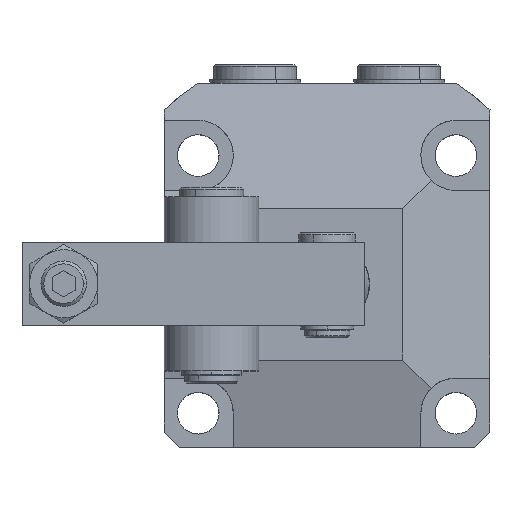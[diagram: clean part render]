
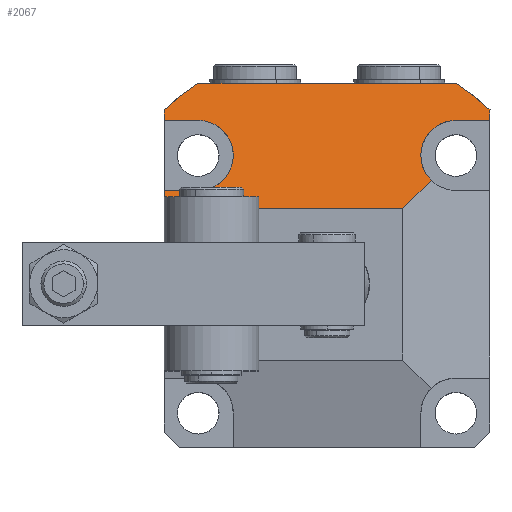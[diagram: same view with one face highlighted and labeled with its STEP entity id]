
A CAD part, top view. The second image highlights one B-rep face of the part: STEP entity #2067.
In plain terms, the highlighted planar face has unit normal (0, 0.259, 0.966).
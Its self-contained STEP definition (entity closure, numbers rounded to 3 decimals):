
#1924=AXIS2_PLACEMENT_3D('Plane Axis2P3D',#1921,#1922,#1923) ;
#1467=CARTESIAN_POINT('Vertex',(34.059,53.,86.158)) ;
#1483=CARTESIAN_POINT('Vertex',(-34.059,53.,86.158)) ;
#1486=CARTESIAN_POINT('Line Origine',(0.,53.,86.158)) ;
#1880=CARTESIAN_POINT('Vertex',(43.,46.043,88.022)) ;
#1884=CARTESIAN_POINT('Control Point',(34.059,53.,86.158)) ;
#1885=CARTESIAN_POINT('Control Point',(37.249,50.95,86.707)) ;
#1886=CARTESIAN_POINT('Control Point',(40.245,48.616,87.332)) ;
#1887=CARTESIAN_POINT('Control Point',(43.,46.043,88.022)) ;
#1905=CARTESIAN_POINT('Vertex',(-43.,46.043,88.022)) ;
#1909=CARTESIAN_POINT('Control Point',(-34.059,53.,86.158)) ;
#1910=CARTESIAN_POINT('Control Point',(-37.249,50.95,86.707)) ;
#1911=CARTESIAN_POINT('Control Point',(-40.245,48.616,87.332)) ;
#1912=CARTESIAN_POINT('Control Point',(-43.,46.043,88.022)) ;
#1921=CARTESIAN_POINT('Axis2P3D Location',(0.,91.171,75.93)) ;
#1926=CARTESIAN_POINT('Line Origine',(43.,44.647,88.396)) ;
#1930=CARTESIAN_POINT('Vertex',(43.,43.25,88.77)) ;
#1933=CARTESIAN_POINT('Line Origine',(-43.,44.647,88.396)) ;
#1937=CARTESIAN_POINT('Vertex',(-43.,43.25,88.77)) ;
#1940=CARTESIAN_POINT('Line Origine',(-38.5,43.25,88.77)) ;
#1944=CARTESIAN_POINT('Vertex',(-34.,43.25,88.77)) ;
#1948=CARTESIAN_POINT('Control Point',(-29.565,42.118,89.074)) ;
#1949=CARTESIAN_POINT('Control Point',(-30.333,42.537,88.961)) ;
#1950=CARTESIAN_POINT('Control Point',(-31.152,42.867,88.873)) ;
#1951=CARTESIAN_POINT('Control Point',(-32.01,43.098,88.811)) ;
#1952=CARTESIAN_POINT('Control Point',(-32.935,43.232,88.775)) ;
#1953=CARTESIAN_POINT('Control Point',(-33.862,43.249,88.77)) ;
#1954=CARTESIAN_POINT('Control Point',(-33.908,43.25,88.77)) ;
#1955=CARTESIAN_POINT('Control Point',(-33.954,43.25,88.77)) ;
#1956=CARTESIAN_POINT('Control Point',(-34.,43.25,88.77)) ;
#1957=CARTESIAN_POINT('Vertex',(-29.565,42.118,89.074)) ;
#1961=CARTESIAN_POINT('Control Point',(-29.565,42.118,89.074)) ;
#1962=CARTESIAN_POINT('Control Point',(-28.783,41.691,89.188)) ;
#1963=CARTESIAN_POINT('Control Point',(-28.056,41.171,89.327)) ;
#1964=CARTESIAN_POINT('Control Point',(-27.397,40.568,89.489)) ;
#1965=CARTESIAN_POINT('Control Point',(-26.228,39.21,89.853)) ;
#1966=CARTESIAN_POINT('Control Point',(-25.42,37.625,90.277)) ;
#1967=CARTESIAN_POINT('Control Point',(-25.111,36.781,90.504)) ;
#1968=CARTESIAN_POINT('Control Point',(-24.7,35.035,90.971)) ;
#1969=CARTESIAN_POINT('Control Point',(-24.716,33.245,91.451)) ;
#1970=CARTESIAN_POINT('Control Point',(-24.832,32.351,91.69)) ;
#1971=CARTESIAN_POINT('Control Point',(-25.274,30.622,92.154)) ;
#1972=CARTESIAN_POINT('Control Point',(-26.118,29.039,92.578)) ;
#1973=CARTESIAN_POINT('Control Point',(-26.63,28.304,92.775)) ;
#1974=CARTESIAN_POINT('Control Point',(-27.813,26.982,93.129)) ;
#1975=CARTESIAN_POINT('Control Point',(-29.286,25.968,93.401)) ;
#1976=CARTESIAN_POINT('Control Point',(-30.073,25.554,93.512)) ;
#1977=CARTESIAN_POINT('Control Point',(-31.329,25.077,93.64)) ;
#1978=CARTESIAN_POINT('Control Point',(-32.647,24.833,93.705)) ;
#1979=CARTESIAN_POINT('Control Point',(-33.097,24.778,93.72)) ;
#1980=CARTESIAN_POINT('Control Point',(-33.548,24.75,93.727)) ;
#1981=CARTESIAN_POINT('Control Point',(-34.,24.75,93.727)) ;
#1982=CARTESIAN_POINT('Vertex',(-34.,24.75,93.727)) ;
#1985=CARTESIAN_POINT('Line Origine',(-38.5,24.75,93.727)) ;
#1989=CARTESIAN_POINT('Vertex',(-43.,24.75,93.727)) ;
#1992=CARTESIAN_POINT('Line Origine',(-43.,22.375,94.364)) ;
#1996=CARTESIAN_POINT('Vertex',(-43.,20.,95.)) ;
#1999=CARTESIAN_POINT('Line Origine',(-11.5,20.,95.)) ;
#2003=CARTESIAN_POINT('Vertex',(20.,20.,95.)) ;
#2006=CARTESIAN_POINT('Line Origine',(23.73,23.73,94.001)) ;
#2010=CARTESIAN_POINT('Vertex',(27.459,27.459,93.001)) ;
#2014=CARTESIAN_POINT('Control Point',(27.459,27.459,93.001)) ;
#2015=CARTESIAN_POINT('Control Point',(26.826,28.092,92.832)) ;
#2016=CARTESIAN_POINT('Control Point',(26.273,28.799,92.642)) ;
#2017=CARTESIAN_POINT('Control Point',(25.809,29.566,92.437)) ;
#2018=CARTESIAN_POINT('Control Point',(25.071,31.202,91.999)) ;
#2019=CARTESIAN_POINT('Control Point',(24.744,32.958,91.528)) ;
#2020=CARTESIAN_POINT('Control Point',(24.686,33.857,91.287)) ;
#2021=CARTESIAN_POINT('Control Point',(24.772,35.351,90.887)) ;
#2022=CARTESIAN_POINT('Control Point',(25.153,36.796,90.499)) ;
#2023=CARTESIAN_POINT('Control Point',(25.351,37.361,90.348)) ;
#2024=CARTESIAN_POINT('Control Point',(25.595,37.909,90.201)) ;
#2025=CARTESIAN_POINT('Control Point',(25.882,38.435,90.06)) ;
#2026=CARTESIAN_POINT('Vertex',(25.882,38.435,90.06)) ;
#2030=CARTESIAN_POINT('Control Point',(25.882,38.435,90.06)) ;
#2031=CARTESIAN_POINT('Control Point',(26.303,39.206,89.854)) ;
#2032=CARTESIAN_POINT('Control Point',(26.818,39.929,89.66)) ;
#2033=CARTESIAN_POINT('Control Point',(27.418,40.591,89.483)) ;
#2034=CARTESIAN_POINT('Control Point',(28.759,41.75,89.172)) ;
#2035=CARTESIAN_POINT('Control Point',(30.347,42.567,88.953)) ;
#2036=CARTESIAN_POINT('Control Point',(31.18,42.876,88.87)) ;
#2037=CARTESIAN_POINT('Control Point',(32.256,43.135,88.801)) ;
#2038=CARTESIAN_POINT('Control Point',(33.352,43.231,88.775)) ;
#2039=CARTESIAN_POINT('Control Point',(33.568,43.244,88.772)) ;
#2040=CARTESIAN_POINT('Control Point',(33.784,43.25,88.77)) ;
#2041=CARTESIAN_POINT('Control Point',(34.,43.25,88.77)) ;
#2042=CARTESIAN_POINT('Vertex',(34.,43.25,88.77)) ;
#2045=CARTESIAN_POINT('Line Origine',(38.5,43.25,88.77)) ;
#1487=DIRECTION('Vector Direction',(1.,0.,0.)) ;
#1922=DIRECTION('Axis2P3D Direction',(-0.,-0.259,-0.966)) ;
#1923=DIRECTION('Axis2P3D XDirection',(0.,-0.966,0.259)) ;
#1927=DIRECTION('Vector Direction',(0.,-0.966,0.259)) ;
#1934=DIRECTION('Vector Direction',(0.,-0.966,0.259)) ;
#1941=DIRECTION('Vector Direction',(-1.,0.,0.)) ;
#1986=DIRECTION('Vector Direction',(-1.,0.,0.)) ;
#1993=DIRECTION('Vector Direction',(0.,-0.966,0.259)) ;
#2000=DIRECTION('Vector Direction',(-1.,0.,0.)) ;
#2007=DIRECTION('Vector Direction',(0.695,0.695,-0.186)) ;
#2046=DIRECTION('Vector Direction',(1.,0.,0.)) ;
#1488=VECTOR('Line Direction',#1487,1.) ;
#1928=VECTOR('Line Direction',#1927,1.) ;
#1935=VECTOR('Line Direction',#1934,1.) ;
#1942=VECTOR('Line Direction',#1941,1.) ;
#1987=VECTOR('Line Direction',#1986,1.) ;
#1994=VECTOR('Line Direction',#1993,1.) ;
#2001=VECTOR('Line Direction',#2000,1.) ;
#2008=VECTOR('Line Direction',#2007,1.) ;
#2047=VECTOR('Line Direction',#2046,1.) ;
#2051=ORIENTED_EDGE('',*,*,#1932,.F.) ;
#2052=ORIENTED_EDGE('',*,*,#1888,.F.) ;
#2053=ORIENTED_EDGE('',*,*,#1490,.F.) ;
#2054=ORIENTED_EDGE('',*,*,#1913,.T.) ;
#2055=ORIENTED_EDGE('',*,*,#1939,.T.) ;
#2056=ORIENTED_EDGE('',*,*,#1946,.F.) ;
#2057=ORIENTED_EDGE('',*,*,#1959,.F.) ;
#2058=ORIENTED_EDGE('',*,*,#1984,.T.) ;
#2059=ORIENTED_EDGE('',*,*,#1991,.T.) ;
#2060=ORIENTED_EDGE('',*,*,#1998,.T.) ;
#2061=ORIENTED_EDGE('',*,*,#2005,.F.) ;
#2062=ORIENTED_EDGE('',*,*,#2012,.T.) ;
#2063=ORIENTED_EDGE('',*,*,#2028,.T.) ;
#2064=ORIENTED_EDGE('',*,*,#2044,.T.) ;
#2065=ORIENTED_EDGE('',*,*,#2049,.T.) ;
#2067=ADVANCED_FACE('Manifold Brep',(#2066),#1925,.F.) ;
#1883=B_SPLINE_CURVE_WITH_KNOTS('',3,(#1884,#1885,#1886,#1887),.UNSPECIFIED.,.F.,.U.,(4,4),(0.,16.27),.UNSPECIFIED.) ;
#1908=B_SPLINE_CURVE_WITH_KNOTS('',3,(#1909,#1910,#1911,#1912),.UNSPECIFIED.,.F.,.U.,(4,4),(0.,16.27),.UNSPECIFIED.) ;
#1947=B_SPLINE_CURVE_WITH_KNOTS('',5,(#1948,#1949,#1950,#1951,#1952,#1953,#1954,#1955,#1956),.UNSPECIFIED.,.F.,.U.,(6,3,6),(0.,6.249,6.575),.UNSPECIFIED.) ;
#1960=B_SPLINE_CURVE_WITH_KNOTS('',5,(#1961,#1962,#1963,#1964,#1965,#1966,#1967,#1968,#1969,#1970,#1971,#1972,#1973,#1974,#1975,#1976,#1977,#1978,#1979,#1980,#1981),.UNSPECIFIED.,.F.,.U.,(6,3,3,3,3,3,6),(0.,6.365,12.871,19.414,25.849,32.14,35.342),.UNSPECIFIED.) ;
#2013=B_SPLINE_CURVE_WITH_KNOTS('',5,(#2014,#2015,#2016,#2017,#2018,#2019,#2020,#2021,#2022,#2023,#2024,#2025),.UNSPECIFIED.,.F.,.U.,(6,3,3,6),(0.,6.454,13.,17.359),.UNSPECIFIED.) ;
#2029=B_SPLINE_CURVE_WITH_KNOTS('',5,(#2030,#2031,#2032,#2033,#2034,#2035,#2036,#2037,#2038,#2039,#2040,#2041),.UNSPECIFIED.,.F.,.U.,(6,3,3,6),(0.,6.395,12.658,14.189),.UNSPECIFIED.) ;
#1490=EDGE_CURVE('',#1484,#1468,#1489,.T.) ;
#1888=EDGE_CURVE('',#1468,#1881,#1883,.T.) ;
#1913=EDGE_CURVE('',#1484,#1906,#1908,.T.) ;
#1932=EDGE_CURVE('',#1881,#1931,#1929,.T.) ;
#1939=EDGE_CURVE('',#1906,#1938,#1936,.T.) ;
#1946=EDGE_CURVE('',#1945,#1938,#1943,.T.) ;
#1959=EDGE_CURVE('',#1958,#1945,#1947,.T.) ;
#1984=EDGE_CURVE('',#1958,#1983,#1960,.T.) ;
#1991=EDGE_CURVE('',#1983,#1990,#1988,.T.) ;
#1998=EDGE_CURVE('',#1990,#1997,#1995,.T.) ;
#2005=EDGE_CURVE('',#2004,#1997,#2002,.T.) ;
#2012=EDGE_CURVE('',#2004,#2011,#2009,.T.) ;
#2028=EDGE_CURVE('',#2011,#2027,#2013,.T.) ;
#2044=EDGE_CURVE('',#2027,#2043,#2029,.T.) ;
#2049=EDGE_CURVE('',#2043,#1931,#2048,.T.) ;
#2050=EDGE_LOOP('',(#2051,#2052,#2053,#2054,#2055,#2056,#2057,#2058,#2059,#2060,#2061,#2062,#2063,#2064,#2065)) ;
#2066=FACE_OUTER_BOUND('',#2050,.T.) ;
#1489=LINE('Line',#1486,#1488) ;
#1929=LINE('Line',#1926,#1928) ;
#1936=LINE('Line',#1933,#1935) ;
#1943=LINE('Line',#1940,#1942) ;
#1988=LINE('Line',#1985,#1987) ;
#1995=LINE('Line',#1992,#1994) ;
#2002=LINE('Line',#1999,#2001) ;
#2009=LINE('Line',#2006,#2008) ;
#2048=LINE('Line',#2045,#2047) ;
#1925=PLANE('Plane',#1924) ;
#1468=VERTEX_POINT('',#1467) ;
#1484=VERTEX_POINT('',#1483) ;
#1881=VERTEX_POINT('',#1880) ;
#1906=VERTEX_POINT('',#1905) ;
#1931=VERTEX_POINT('',#1930) ;
#1938=VERTEX_POINT('',#1937) ;
#1945=VERTEX_POINT('',#1944) ;
#1958=VERTEX_POINT('',#1957) ;
#1983=VERTEX_POINT('',#1982) ;
#1990=VERTEX_POINT('',#1989) ;
#1997=VERTEX_POINT('',#1996) ;
#2004=VERTEX_POINT('',#2003) ;
#2011=VERTEX_POINT('',#2010) ;
#2027=VERTEX_POINT('',#2026) ;
#2043=VERTEX_POINT('',#2042) ;
